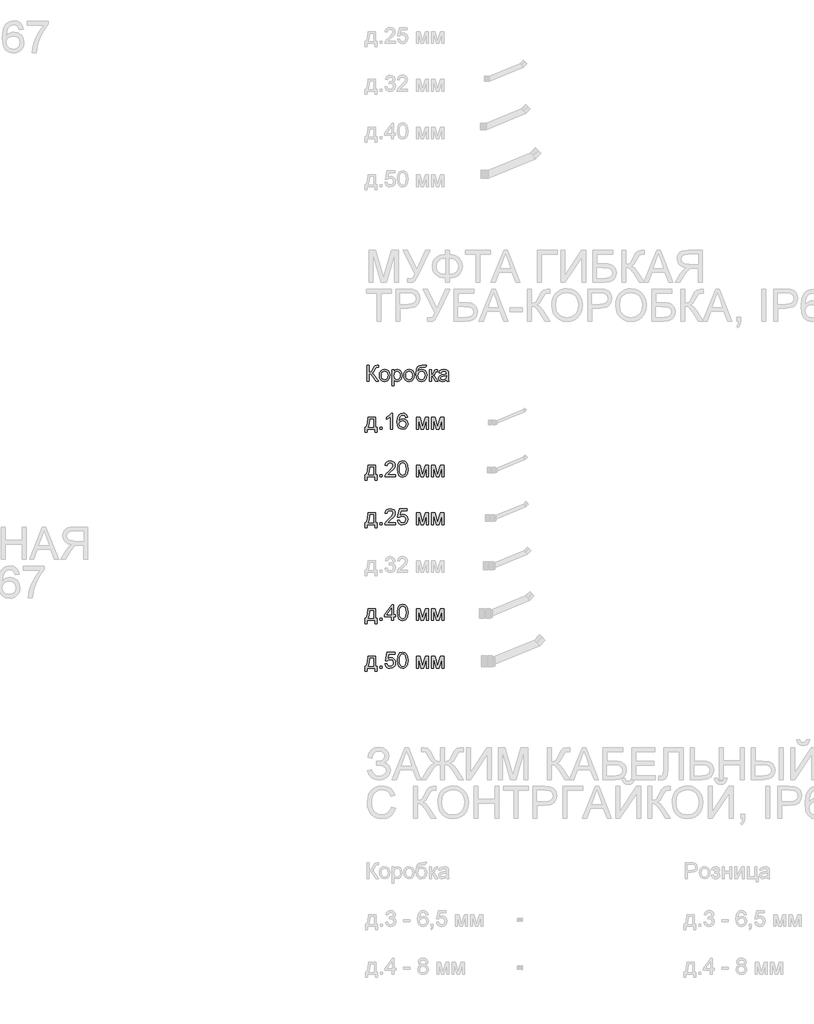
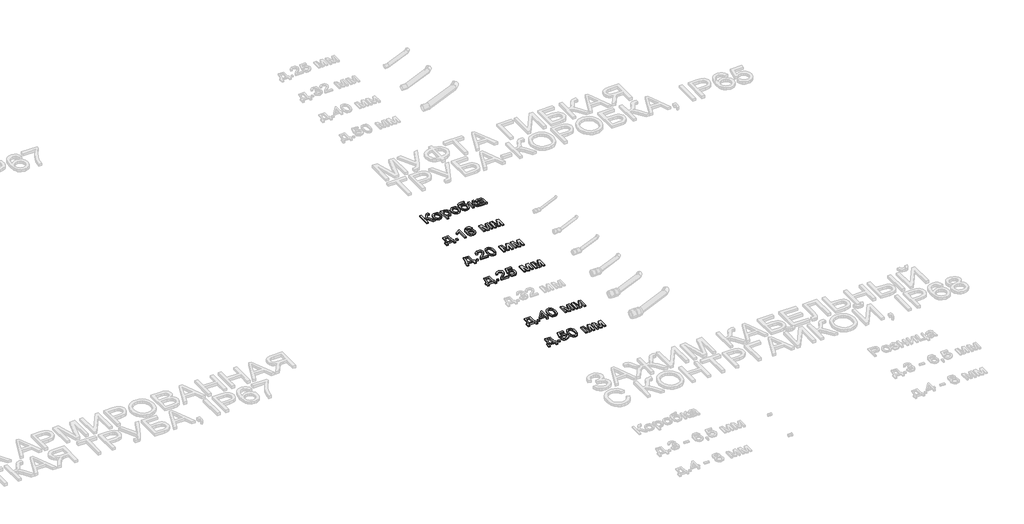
# One storey, part 61 of 98: 6 proxies.
"""IFC4 building model written with IfcOpenShell, lengths in millimetres."""

from ifc_helpers import new_model, si_unit, origin, origin_with_axes, place, context, project, spatial, polyline, outline, extrude, element, save

model = new_model("IFC4")

# Units and contexts
model_context = context("Model", 3, world=origin())
ifc_project = project(units=[si_unit("LENGTHUNIT", "METRE", prefix="MILLI")], contexts=[model_context])

# Site, building, storey
site = spatial("IfcSite", under=ifc_project)
building = spatial("IfcBuilding", under=site)
storey = spatial("IfcBuildingStorey", under=building, Name="Этаж 01", Elevation=0.0)

# Proxies
placement = place(None, origin())
element("IfcBuildingElementProxy", 1, Name="100", ObjectType="100", at=placement, inside=storey, context=model_context, shape_type="SweptSolid", body=[
    extrude(outline(polyline([(14428.905254, -24327.7143815), (14475.9941494, -24327.7143815), (14475.9941494, -24388.9299455), (14485.4119285, -24388.9299455), (14485.4119285, -24421.8921723), (14472.8548897, -24421.8921723), (14472.8548897, -24401.4869843), (14421.0571048, -24401.4869843), (14421.0571048, -24421.8921723), (14408.500066, -24421.8921723), (14408.500066, -24388.9299455), (14416.3482152, -24388.9299455), (14426.0480372, -24364.9808276), (14428.905254, -24327.7143815)]), holes=[polyline([(14439.8926629, -24340.2714203), (14436.949607, -24368.8803768), (14430.4748839, -24388.9299455), (14463.4371106, -24388.9299455), (14463.4371106, -24340.2714203), (14439.8926629, -24340.2714203)])]), origin_with_axes(), (0.0, 0.0, 1.0), 10.0),
    extrude(outline(polyline([(14502.6778568, -24401.4869843), (14502.6778568, -24388.9299455), (14515.2348955, -24388.9299455), (14515.2348955, -24401.4869843), (14502.6778568, -24401.4869843)])), origin_with_axes(), (0.0, 0.0, 1.0), 10.0),
    extrude(outline(polyline([(14582.7289789, -24401.4869843), (14570.1719402, -24401.4869843), (14570.1719402, -24323.2016957), (14558.277089, -24331.6752444), (14545.0578626, -24338.0150774), (14545.0578626, -24326.1447517), (14563.4642251, -24314.3970533), (14574.635575, -24301.0306742), (14582.7289789, -24301.0306742), (14582.7289789, -24401.4869843)])), origin_with_axes(), (0.0, 0.0, 1.0), 10.0),
    extrude(outline(polyline([(14676.9067697, -24327.7143815), (14664.3497309, -24329.2840114), (14659.5917905, -24318.8116373), (14647.0102262, -24313.5877129), (14635.6794608, -24316.6288707), (14627.1078103, -24328.0454753), (14623.5393549, -24350.4249634), (14634.612603, -24340.4063104), (14648.3346014, -24337.1321606), (14659.935147, -24339.3701094), (14669.6717571, -24346.0839558), (14676.2752389, -24356.3417321), (14678.4763995, -24369.2114706), (14674.3315957, -24386.5387126), (14662.9272539, -24398.8014457), (14646.470666, -24403.0566141), (14632.2244357, -24400.2361855), (14620.8783418, -24391.7748996), (14613.4563226, -24376.8388906), (14610.9823162, -24354.5942927), (14613.7291684, -24329.5844483), (14621.9697251, -24312.4840669), (14633.2207828, -24303.8940223), (14647.7950411, -24301.0306742), (14658.8131069, -24302.8026391), (14667.6361434, -24308.1185339), (14673.8165609, -24316.5614257), (14676.9067697, -24327.7143815)]), holes=[polyline([(14623.5393549, -24369.0152669), (14626.4456227, -24379.8923112), (14634.1711446, -24387.7895114), (14645.4896473, -24390.4995754), (14653.7761892, -24389.0954924), (14660.2907662, -24384.8832436), (14664.5122121, -24378.2613677), (14665.9193608, -24369.6284035), (14664.5306062, -24361.3418616), (14660.3643426, -24355.0234883), (14653.739401, -24351.0227716), (14644.9746125, -24349.6891994), (14629.7810861, -24355.0234883), (14625.0997877, -24361.1885774), (14623.5393549, -24369.0152669)])]), origin_with_axes(), (0.0, 0.0, 1.0), 10.0),
    extrude(outline(polyline([(14731.8438143, -24327.7143815), (14753.4507502, -24327.7143815), (14770.1035418, -24386.7717045), (14788.0561832, -24327.7143815), (14808.7556768, -24327.7143815), (14808.7556768, -24401.4869843), (14796.198638, -24401.4869843), (14796.198638, -24342.0863048), (14778.1478948, -24401.4869843), (14761.6667814, -24401.4869843), (14744.4008531, -24339.2413507), (14744.4008531, -24401.4869843), (14731.8438143, -24401.4869843), (14731.8438143, -24327.7143815)])), origin_with_axes(), (0.0, 0.0, 1.0), 10.0),
    extrude(outline(polyline([(14827.5912349, -24327.7143815), (14849.1981708, -24327.7143815), (14865.8509624, -24386.7717045), (14883.8036038, -24327.7143815), (14904.5030974, -24327.7143815), (14904.5030974, -24401.4869843), (14891.9460586, -24401.4869843), (14891.9460586, -24342.0863048), (14873.8953154, -24401.4869843), (14857.414202, -24401.4869843), (14840.1482737, -24339.2413507), (14840.1482737, -24401.4869843), (14827.5912349, -24401.4869843), (14827.5912349, -24327.7143815)])), origin_with_axes(), (0.0, 0.0, 1.0), 10.0),
])
element("IfcBuildingElementProxy", 2, Name="100", ObjectType="100", at=placement, inside=storey, context=model_context, shape_type="SweptSolid", body=[
    extrude(outline(polyline([(14422.316053, -24001.0306742), (14434.8730918, -24001.0306742), (14434.8730918, -24044.9803098), (14448.9139213, -24041.6571092), (14458.7118451, -24024.844902), (14465.6402893, -24010.8040725), (14473.4884386, -24003.8511028), (14484.7088394, -24001.0306742), (14492.9493961, -24001.177827), (14492.9493961, -24013.7348657), (14490.1780184, -24013.6612893), (14487.4066407, -24013.5877129), (14477.5964542, -24016.6043453), (14470.1407124, -24029.529266), (14461.2502309, -24045.2746154), (14452.5804785, -24050.4740143), (14462.2741691, -24056.1516598), (14471.8329696, -24067.9851973), (14492.9493961, -24101.4869843), (14478.3812691, -24101.4869843), (14460.5267296, -24073.1845961), (14447.9574281, -24058.4080027), (14434.8730918, -24054.3980889), (14434.8730918, -24101.4869843), (14422.316053, -24101.4869843), (14422.316053, -24001.0306742)])), origin_with_axes(), (0.0, 0.0, 1.0), 10.0),
    extrude(outline(polyline([(14499.2279155, -24064.6006829), (14501.9441109, -24046.8135885), (14510.0926971, -24034.311732), (14520.160401, -24028.1864968), (14532.2146677, -24026.1447517), (14545.4063029, -24028.6310208), (14555.9430564, -24036.0898283), (14562.8500409, -24047.9325629), (14565.152369, -24063.5706133), (14561.0811416, -24085.9133132), (14549.2230786, -24098.5561911), (14532.2146677, -24103.0566141), (14518.863617, -24100.579542), (14508.3391263, -24093.1483257), (14501.5057182, -24081.0572708), (14499.2279155, -24064.6006829)]), holes=[polyline([(14511.7849543, -24064.5761575), (14513.2380882, -24075.9406454), (14517.5974898, -24084.037115), (14524.158052, -24088.8839603), (14532.2146677, -24090.4995754), (14540.2344952, -24088.8747632), (14546.7827947, -24084.0003268), (14551.1421964, -24075.7965583), (14552.5953303, -24064.18375), (14551.1329993, -24053.1503558), (14546.7460065, -24045.1642508), (14540.18851, -24040.3174056), (14532.2146677, -24038.7017905), (14524.158052, -24040.3112742), (14517.5974898, -24045.1397254), (14513.2380882, -24053.2178009), (14511.7849543, -24064.5761575)])]), origin_with_axes(), (0.0, 0.0, 1.0), 10.0),
    extrude(outline(polyline([(14579.2790377, -24129.7403215), (14579.2790377, -24027.7143815), (14591.8360764, -24027.7143815), (14591.8360764, -24040.0261656), (14600.5180915, -24029.6151052), (14612.2412644, -24026.1447517), (14628.1582921, -24031.000794), (14638.5570898, -24044.6860042), (14642.0642315, -24064.0365972), (14638.1033687, -24084.3804715), (14626.600925, -24098.23736), (14610.7206855, -24103.0566141), (14599.7945903, -24099.8315153), (14591.8360764, -24091.6767978), (14591.8360764, -24129.7403215), (14579.2790377, -24129.7403215)]), holes=[polyline([(14591.8360764, -24065.1892941), (14593.1941741, -24076.4464832), (14597.2684672, -24084.3191579), (14603.2802722, -24088.954471), (14610.4509054, -24090.4995754), (14617.7380346, -24088.8992887), (14623.9031237, -24084.0984287), (14628.1061755, -24075.9375797), (14629.5071927, -24064.2573264), (14628.139898, -24053.061451), (14624.0380137, -24045.0784117), (14618.0354058, -24040.2959458), (14610.9659402, -24038.7017905), (14603.8688833, -24040.3971133), (14597.6363492, -24045.4830819), (14593.2861446, -24053.8002807), (14591.8360764, -24065.1892941)])]), origin_with_axes(), (0.0, 0.0, 1.0), 10.0),
    extrude(outline(polyline([(14653.0516404, -24064.6006829), (14655.7678358, -24046.8135885), (14663.916422, -24034.311732), (14673.9841259, -24028.1864968), (14686.0383927, -24026.1447517), (14699.2300279, -24028.6310208), (14709.7667813, -24036.0898283), (14716.6737658, -24047.9325629), (14718.976094, -24063.5706133), (14714.9048665, -24085.9133132), (14703.0468036, -24098.5561911), (14686.0383927, -24103.0566141), (14672.6873419, -24100.579542), (14662.1628512, -24093.1483257), (14655.3294431, -24081.0572708), (14653.0516404, -24064.6006829)]), holes=[polyline([(14665.6086792, -24064.5761575), (14667.0618131, -24075.9406454), (14671.4212147, -24084.037115), (14677.981777, -24088.8839603), (14686.0383927, -24090.4995754), (14694.0582202, -24088.8747632), (14700.6065197, -24084.0003268), (14704.9659213, -24075.7965583), (14706.4190552, -24064.18375), (14704.9567243, -24053.1503558), (14700.5697315, -24045.1642508), (14694.0122349, -24040.3174056), (14686.0383927, -24038.7017905), (14677.981777, -24040.3112742), (14671.4212147, -24045.1397254), (14667.0618131, -24053.2178009), (14665.6086792, -24064.5761575)])]), origin_with_axes(), (0.0, 0.0, 1.0), 10.0),
    extrude(outline(polyline([(14784.9005475, -23999.4610443), (14795.8879564, -23999.4610443), (14792.6505949, -24009.2589681), (14786.2494481, -24012.802898), (14770.8719807, -24013.5877129), (14750.1602244, -24016.481718), (14742.2139733, -24025.7523442), (14739.5284348, -24042.1598812), (14750.4054791, -24030.1424027), (14764.4217831, -24026.1447517), (14777.4877253, -24028.6862031), (14788.0888581, -24036.3105575), (14795.1154042, -24048.269788), (14797.4575863, -24063.815868), (14792.8100104, -24085.4228038), (14781.7858133, -24098.4580892), (14764.4217831, -24103.0566141), (14753.087952, -24101.5758891), (14744.5929436, -24097.133714), (14733.7404247, -24081.9769758), (14729.9635029, -24049.8118267), (14732.3455388, -24025.7186217), (14739.4916466, -24011.0248017), (14751.5796358, -24003.529206), (14768.7873161, -24001.0306742), (14782.7668319, -24000.7486313), (14784.9005475, -23999.4610443)]), holes=[polyline([(14784.9005475, -24063.4234605), (14783.5393841, -24053.5427633), (14779.455894, -24045.6302347), (14772.8953317, -24040.4339015), (14764.102952, -24038.7017905), (14754.936559, -24040.5320034), (14748.1368734, -24046.0226422), (14743.9246246, -24054.5728329), (14742.5205416, -24065.5817016), (14744.0717774, -24076.2533451), (14748.7254846, -24084.0861659), (14755.6539289, -24088.896223), (14764.0293756, -24090.4995754), (14772.447742, -24088.644837), (14779.1125374, -24083.0806218), (14783.453545, -24074.4568547), (14784.9005475, -24063.4234605)])]), origin_with_axes(), (0.0, 0.0, 1.0), 10.0),
    extrude(outline(polyline([(14813.1538847, -24027.7143815), (14825.7109235, -24027.7143815), (14825.7109235, -24059.1069785), (14834.1231584, -24056.8506356), (14841.0148145, -24043.7049856), (14846.7415109, -24032.3619574), (14851.7937569, -24028.6708747), (14860.9785441, -24027.7143815), (14863.3820398, -24027.7143815), (14863.3820398, -24040.3449967), (14859.9975254, -24040.2714203), (14853.8661589, -24041.5957955), (14849.5496768, -24049.8608776), (14844.485168, -24058.8004101), (14837.3850455, -24063.1782059), (14845.3067711, -24068.064905), (14853.0813439, -24078.3594695), (14866.5212995, -24101.4869843), (14852.2474781, -24101.4869843), (14839.0773026, -24078.8499789), (14832.4554267, -24069.2727843), (14825.7109235, -24066.9551277), (14825.7109235, -24101.4869843), (14813.1538847, -24101.4869843), (14813.1538847, -24027.7143815)])), origin_with_axes(), (0.0, 0.0, 1.0), 10.0),
    extrude(outline(polyline([(14921.4583441, -24092.0692052), (14909.2814501, -24100.579542), (14895.8292318, -24103.0566141), (14885.3353979, -24101.5666921), (14877.5945475, -24097.0969258), (14872.8212787, -24090.309503), (14871.230189, -24081.8666112), (14873.6336847, -24071.9337974), (14879.9489923, -24064.7233103), (14888.741372, -24060.6030319), (14899.6061536, -24058.714571), (14921.3847677, -24054.3980889), (14921.4583441, -24051.6021858), (14918.0002533, -24042.3315595), (14904.1188394, -24038.7017905), (14891.4146478, -24041.1175489), (14885.3568576, -24049.6891994), (14872.7998189, -24048.1195695), (14878.2322097, -24035.8568364), (14889.1705677, -24028.6708747), (14905.7375202, -24026.1447517), (14920.955572, -24028.3765691), (14929.551748, -24033.9806382), (14933.4022462, -24042.5032377), (14934.0153829, -24053.4906467), (14934.0153829, -24069.1133687), (14934.653045, -24090.928771), (14937.1546426, -24101.4869843), (14924.5976038, -24101.4869843), (14921.4583441, -24092.0692052)]), holes=[polyline([(14921.4583441, -24066.9551277), (14901.2003089, -24070.8056259), (14890.396841, -24072.8412396), (14885.5040104, -24076.1521776), (14883.7872278, -24080.9836944), (14887.5273614, -24087.7772486), (14898.5025076, -24090.4995754), (14911.2066992, -24087.4952058), (14919.3982049, -24080.223405), (14921.3847677, -24070.5113203), (14921.4583441, -24066.9551277)])]), origin_with_axes(), (0.0, 0.0, 1.0), 10.0),
])
element("IfcBuildingElementProxy", 3, Name="100", ObjectType="100", at=placement, inside=storey, context=model_context, shape_type="SweptSolid", body=[
    extrude(outline(polyline([(14428.905254, -24627.7143815), (14475.9941494, -24627.7143815), (14475.9941494, -24688.9299455), (14485.4119285, -24688.9299455), (14485.4119285, -24721.8921723), (14472.8548897, -24721.8921723), (14472.8548897, -24701.4869843), (14421.0571048, -24701.4869843), (14421.0571048, -24721.8921723), (14408.500066, -24721.8921723), (14408.500066, -24688.9299455), (14416.3482152, -24688.9299455), (14426.0480372, -24664.9808276), (14428.905254, -24627.7143815)]), holes=[polyline([(14439.8926629, -24640.2714203), (14436.949607, -24668.8803768), (14430.4748839, -24688.9299455), (14463.4371106, -24688.9299455), (14463.4371106, -24640.2714203), (14439.8926629, -24640.2714203)])]), origin_with_axes(), (0.0, 0.0, 1.0), 10.0),
    extrude(outline(polyline([(14502.6778568, -24701.4869843), (14502.6778568, -24688.9299455), (14515.2348955, -24688.9299455), (14515.2348955, -24701.4869843), (14502.6778568, -24701.4869843)])), origin_with_axes(), (0.0, 0.0, 1.0), 10.0),
    extrude(outline(polyline([(14599.9949072, -24688.9299455), (14599.9949072, -24701.4869843), (14534.0704537, -24701.4869843), (14535.4193544, -24692.8294947), (14543.0467744, -24679.4999037), (14558.7675983, -24664.9440394), (14580.4481106, -24644.0238167), (14585.8682386, -24629.7990462), (14580.7546789, -24618.2843397), (14567.4005625, -24613.5877129), (14553.4823603, -24618.1739751), (14548.1971223, -24630.8536412), (14535.6400835, -24629.2840114), (14538.6843071, -24617.1377742), (14545.2663291, -24608.2656867), (14555.0427931, -24602.8394273), (14567.6703426, -24601.0306742), (14580.3898626, -24603.0417624), (14590.1479325, -24609.0750271), (14596.3559412, -24618.088136), (14598.4252774, -24629.0387567), (14596.19346, -24640.9458706), (14588.7745064, -24653.2576547), (14570.7850768, -24670.4622694), (14556.3395771, -24682.5410616), (14550.6741944, -24688.9299455), (14599.9949072, -24688.9299455)])), origin_with_axes(), (0.0, 0.0, 1.0), 10.0),
    extrude(outline(polyline([(14612.551946, -24652.0681696), (14616.2430287, -24623.1649075), (14627.2059121, -24606.4998531), (14645.5141728, -24601.0306742), (14660.1804016, -24604.2680357), (14670.3094192, -24613.5999757), (14676.1955312, -24628.4624083), (14678.4763995, -24652.0681696), (14674.8221051, -24680.8488044), (14663.8960098, -24697.550647), (14655.6646502, -24701.6801224), (14645.5141728, -24703.0566141), (14632.4666247, -24700.6653812), (14622.5583363, -24693.4916823), (14615.0535436, -24676.5016655), (14612.551946, -24652.0681696)]), holes=[polyline([(14625.1089848, -24652.0436442), (14626.5805128, -24671.7958416), (14630.9950967, -24683.2277746), (14637.5679217, -24688.6816252), (14645.5141728, -24690.4995754), (14653.4604239, -24688.6754938), (14660.0332488, -24683.2032491), (14664.4478328, -24671.7651848), (14665.9193608, -24652.0436442), (14664.4968837, -24632.7359708), (14660.2294526, -24621.215133), (14653.6688903, -24615.4945679), (14645.36702, -24613.5877129), (14637.506608, -24615.2677074), (14631.1913004, -24620.3076907), (14626.6295637, -24632.5458984), (14625.1089848, -24652.0436442)])]), origin_with_axes(), (0.0, 0.0, 1.0), 10.0),
    extrude(outline(polyline([(14731.8438143, -24627.7143815), (14753.4507502, -24627.7143815), (14770.1035418, -24686.7717045), (14788.0561832, -24627.7143815), (14808.7556768, -24627.7143815), (14808.7556768, -24701.4869843), (14796.198638, -24701.4869843), (14796.198638, -24642.0863048), (14778.1478948, -24701.4869843), (14761.6667814, -24701.4869843), (14744.4008531, -24639.2413507), (14744.4008531, -24701.4869843), (14731.8438143, -24701.4869843), (14731.8438143, -24627.7143815)])), origin_with_axes(), (0.0, 0.0, 1.0), 10.0),
    extrude(outline(polyline([(14827.5912349, -24627.7143815), (14849.1981708, -24627.7143815), (14865.8509624, -24686.7717045), (14883.8036038, -24627.7143815), (14904.5030974, -24627.7143815), (14904.5030974, -24701.4869843), (14891.9460586, -24701.4869843), (14891.9460586, -24642.0863048), (14873.8953154, -24701.4869843), (14857.414202, -24701.4869843), (14840.1482737, -24639.2413507), (14840.1482737, -24701.4869843), (14827.5912349, -24701.4869843), (14827.5912349, -24627.7143815)])), origin_with_axes(), (0.0, 0.0, 1.0), 10.0),
])
element("IfcBuildingElementProxy", 4, Name="100", ObjectType="100", at=placement, inside=storey, context=model_context, shape_type="SweptSolid", body=[
    extrude(outline(polyline([(14428.905254, -24927.7143815), (14475.9941494, -24927.7143815), (14475.9941494, -24988.9299455), (14485.4119285, -24988.9299455), (14485.4119285, -25021.8921723), (14472.8548897, -25021.8921723), (14472.8548897, -25001.4869843), (14421.0571048, -25001.4869843), (14421.0571048, -25021.8921723), (14408.500066, -25021.8921723), (14408.500066, -24988.9299455), (14416.3482152, -24988.9299455), (14426.0480372, -24964.9808276), (14428.905254, -24927.7143815)]), holes=[polyline([(14439.8926629, -24940.2714203), (14436.949607, -24968.8803768), (14430.4748839, -24988.9299455), (14463.4371106, -24988.9299455), (14463.4371106, -24940.2714203), (14439.8926629, -24940.2714203)])]), origin_with_axes(), (0.0, 0.0, 1.0), 10.0),
    extrude(outline(polyline([(14502.6778568, -25001.4869843), (14502.6778568, -24988.9299455), (14515.2348955, -24988.9299455), (14515.2348955, -25001.4869843), (14502.6778568, -25001.4869843)])), origin_with_axes(), (0.0, 0.0, 1.0), 10.0),
    extrude(outline(polyline([(14599.9949072, -24988.9299455), (14599.9949072, -25001.4869843), (14534.0704537, -25001.4869843), (14535.4193544, -24992.8294947), (14543.0467744, -24979.4999037), (14558.7675983, -24964.9440394), (14580.4481106, -24944.0238167), (14585.8682386, -24929.7990462), (14580.7546789, -24918.2843397), (14567.4005625, -24913.5877129), (14553.4823603, -24918.1739751), (14548.1971223, -24930.8536412), (14535.6400835, -24929.2840114), (14538.6843071, -24917.1377742), (14545.2663291, -24908.2656867), (14555.0427931, -24902.8394273), (14567.6703426, -24901.0306742), (14580.3898626, -24903.0417624), (14590.1479325, -24909.0750271), (14596.3559412, -24918.088136), (14598.4252774, -24929.0387567), (14596.19346, -24940.9458706), (14588.7745064, -24953.2576547), (14570.7850768, -24970.4622694), (14556.3395771, -24982.5410616), (14550.6741944, -24988.9299455), (14599.9949072, -24988.9299455)])), origin_with_axes(), (0.0, 0.0, 1.0), 10.0),
    extrude(outline(polyline([(14612.551946, -24974.8032769), (14625.1089848, -24973.2336471), (14631.4365551, -24986.1708306), (14644.5576796, -24990.4995754), (14653.5585257, -24988.9943249), (14660.303029, -24984.4785734), (14664.5152778, -24977.4734871), (14665.9193608, -24968.5002321), (14660.6586482, -24953.5887485), (14654.0521007, -24949.4868643), (14644.7538833, -24948.1195695), (14633.7296862, -24950.302336), (14626.6786146, -24955.9677188), (14614.1215759, -24954.3980889), (14625.1089848, -24902.600304), (14673.76751, -24902.600304), (14673.76751, -24915.1573428), (14635.2625278, -24915.1573428), (14629.8914507, -24942.8220688), (14638.86164, -24937.3774153), (14648.261025, -24935.5625308), (14659.993395, -24937.8127423), (14669.7330708, -24944.5633769), (14676.2905674, -24954.85181), (14678.4763995, -24967.7154171), (14676.5082309, -24980.2724559), (14670.6037248, -24991.0146102), (14659.2974849, -25000.0461132), (14644.5086287, -25003.0566141), (14632.1753848, -25001.122168), (14622.3498698, -24995.3188295), (14615.6145636, -24986.3210491), (14612.551946, -24974.8032769)])), origin_with_axes(), (0.0, 0.0, 1.0), 10.0),
    extrude(outline(polyline([(14731.8438143, -24927.7143815), (14753.4507502, -24927.7143815), (14770.1035418, -24986.7717045), (14788.0561832, -24927.7143815), (14808.7556768, -24927.7143815), (14808.7556768, -25001.4869843), (14796.198638, -25001.4869843), (14796.198638, -24942.0863048), (14778.1478948, -25001.4869843), (14761.6667814, -25001.4869843), (14744.4008531, -24939.2413507), (14744.4008531, -25001.4869843), (14731.8438143, -25001.4869843), (14731.8438143, -24927.7143815)])), origin_with_axes(), (0.0, 0.0, 1.0), 10.0),
    extrude(outline(polyline([(14827.5912349, -24927.7143815), (14849.1981708, -24927.7143815), (14865.8509624, -24986.7717045), (14883.8036038, -24927.7143815), (14904.5030974, -24927.7143815), (14904.5030974, -25001.4869843), (14891.9460586, -25001.4869843), (14891.9460586, -24942.0863048), (14873.8953154, -25001.4869843), (14857.414202, -25001.4869843), (14840.1482737, -24939.2413507), (14840.1482737, -25001.4869843), (14827.5912349, -25001.4869843), (14827.5912349, -24927.7143815)])), origin_with_axes(), (0.0, 0.0, 1.0), 10.0),
])
element("IfcBuildingElementProxy", 5, Name="100", ObjectType="100", at=placement, inside=storey, context=model_context, shape_type="SweptSolid", body=[
    extrude(outline(polyline([(14428.905254, -25527.7143815), (14475.9941494, -25527.7143815), (14475.9941494, -25588.9299455), (14485.4119285, -25588.9299455), (14485.4119285, -25621.8921723), (14472.8548897, -25621.8921723), (14472.8548897, -25601.4869843), (14421.0571048, -25601.4869843), (14421.0571048, -25621.8921723), (14408.500066, -25621.8921723), (14408.500066, -25588.9299455), (14416.3482152, -25588.9299455), (14426.0480372, -25564.9808276), (14428.905254, -25527.7143815)]), holes=[polyline([(14439.8926629, -25540.2714203), (14436.949607, -25568.8803768), (14430.4748839, -25588.9299455), (14463.4371106, -25588.9299455), (14463.4371106, -25540.2714203), (14439.8926629, -25540.2714203)])]), origin_with_axes(), (0.0, 0.0, 1.0), 10.0),
    extrude(outline(polyline([(14502.6778568, -25601.4869843), (14502.6778568, -25588.9299455), (14515.2348955, -25588.9299455), (14515.2348955, -25601.4869843), (14502.6778568, -25601.4869843)])), origin_with_axes(), (0.0, 0.0, 1.0), 10.0),
    extrude(outline(polyline([(14576.4504595, -25601.4869843), (14576.4504595, -25577.9425366), (14530.931194, -25577.9425366), (14530.931194, -25565.3854978), (14579.5897192, -25502.600304), (14589.0074983, -25502.600304), (14589.0074983, -25565.3854978), (14601.5645371, -25565.3854978), (14601.5645371, -25577.9425366), (14589.0074983, -25577.9425366), (14589.0074983, -25601.4869843), (14576.4504595, -25601.4869843)]), holes=[polyline([(14576.4504595, -25565.3854978), (14576.4504595, -25526.5862101), (14546.3822378, -25565.3854978), (14576.4504595, -25565.3854978)])]), origin_with_axes(), (0.0, 0.0, 1.0), 10.0),
    extrude(outline(polyline([(14612.551946, -25552.0681696), (14616.2430287, -25523.1649075), (14627.2059121, -25506.4998531), (14645.5141728, -25501.0306742), (14660.1804016, -25504.2680357), (14670.3094192, -25513.5999757), (14676.1955312, -25528.4624083), (14678.4763995, -25552.0681696), (14674.8221051, -25580.8488044), (14663.8960098, -25597.550647), (14655.6646502, -25601.6801224), (14645.5141728, -25603.0566141), (14632.4666247, -25600.6653812), (14622.5583363, -25593.4916823), (14615.0535436, -25576.5016655), (14612.551946, -25552.0681696)]), holes=[polyline([(14625.1089848, -25552.0436442), (14626.5805128, -25571.7958416), (14630.9950967, -25583.2277746), (14637.5679217, -25588.6816252), (14645.5141728, -25590.4995754), (14653.4604239, -25588.6754938), (14660.0332488, -25583.2032491), (14664.4478328, -25571.7651848), (14665.9193608, -25552.0436442), (14664.4968837, -25532.7359708), (14660.2294526, -25521.215133), (14653.6688903, -25515.4945679), (14645.36702, -25513.5877129), (14637.506608, -25515.2677074), (14631.1913004, -25520.3076907), (14626.6295637, -25532.5458984), (14625.1089848, -25552.0436442)])]), origin_with_axes(), (0.0, 0.0, 1.0), 10.0),
    extrude(outline(polyline([(14731.8438143, -25527.7143815), (14753.4507502, -25527.7143815), (14770.1035418, -25586.7717045), (14788.0561832, -25527.7143815), (14808.7556768, -25527.7143815), (14808.7556768, -25601.4869843), (14796.198638, -25601.4869843), (14796.198638, -25542.0863048), (14778.1478948, -25601.4869843), (14761.6667814, -25601.4869843), (14744.4008531, -25539.2413507), (14744.4008531, -25601.4869843), (14731.8438143, -25601.4869843), (14731.8438143, -25527.7143815)])), origin_with_axes(), (0.0, 0.0, 1.0), 10.0),
    extrude(outline(polyline([(14827.5912349, -25527.7143815), (14849.1981708, -25527.7143815), (14865.8509624, -25586.7717045), (14883.8036038, -25527.7143815), (14904.5030974, -25527.7143815), (14904.5030974, -25601.4869843), (14891.9460586, -25601.4869843), (14891.9460586, -25542.0863048), (14873.8953154, -25601.4869843), (14857.414202, -25601.4869843), (14840.1482737, -25539.2413507), (14840.1482737, -25601.4869843), (14827.5912349, -25601.4869843), (14827.5912349, -25527.7143815)])), origin_with_axes(), (0.0, 0.0, 1.0), 10.0),
])
element("IfcBuildingElementProxy", 6, Name="100", ObjectType="100", at=placement, inside=storey, context=model_context, shape_type="SweptSolid", body=[
    extrude(outline(polyline([(14428.905254, -25827.7143815), (14475.9941494, -25827.7143815), (14475.9941494, -25888.9299455), (14485.4119285, -25888.9299455), (14485.4119285, -25921.8921723), (14472.8548897, -25921.8921723), (14472.8548897, -25901.4869843), (14421.0571048, -25901.4869843), (14421.0571048, -25921.8921723), (14408.500066, -25921.8921723), (14408.500066, -25888.9299455), (14416.3482152, -25888.9299455), (14426.0480372, -25864.9808276), (14428.905254, -25827.7143815)]), holes=[polyline([(14439.8926629, -25840.2714203), (14436.949607, -25868.8803768), (14430.4748839, -25888.9299455), (14463.4371106, -25888.9299455), (14463.4371106, -25840.2714203), (14439.8926629, -25840.2714203)])]), origin_with_axes(), (0.0, 0.0, 1.0), 10.0),
    extrude(outline(polyline([(14502.6778568, -25901.4869843), (14502.6778568, -25888.9299455), (14515.2348955, -25888.9299455), (14515.2348955, -25901.4869843), (14502.6778568, -25901.4869843)])), origin_with_axes(), (0.0, 0.0, 1.0), 10.0),
    extrude(outline(polyline([(14535.6400835, -25874.8032769), (14548.1971223, -25873.2336471), (14554.5246926, -25886.1708306), (14567.6458171, -25890.4995754), (14576.6466633, -25888.9943249), (14583.3911665, -25884.4785734), (14587.6034154, -25877.4734871), (14589.0074983, -25868.5002321), (14583.7467858, -25853.5887485), (14577.1402383, -25849.4868643), (14567.8420209, -25848.1195695), (14556.8178237, -25850.302336), (14549.7667522, -25855.9677188), (14537.2097134, -25854.3980889), (14548.1971223, -25802.600304), (14596.8556475, -25802.600304), (14596.8556475, -25815.1573428), (14558.3506654, -25815.1573428), (14552.9795883, -25842.8220688), (14561.9497776, -25837.3774153), (14571.3491625, -25835.5625308), (14583.0815325, -25837.8127423), (14592.8212083, -25844.5633769), (14599.3787049, -25854.85181), (14601.5645371, -25867.7154171), (14599.5963684, -25880.2724559), (14593.6918624, -25891.0146102), (14582.3856224, -25900.0461132), (14567.5967662, -25903.0566141), (14555.2635223, -25901.122168), (14545.4380074, -25895.3188295), (14538.7027012, -25886.3210491), (14535.6400835, -25874.8032769)])), origin_with_axes(), (0.0, 0.0, 1.0), 10.0),
    extrude(outline(polyline([(14612.551946, -25852.0681696), (14616.2430287, -25823.1649075), (14627.2059121, -25806.4998531), (14645.5141728, -25801.0306742), (14660.1804016, -25804.2680357), (14670.3094192, -25813.5999757), (14676.1955312, -25828.4624083), (14678.4763995, -25852.0681696), (14674.8221051, -25880.8488044), (14663.8960098, -25897.550647), (14655.6646502, -25901.6801224), (14645.5141728, -25903.0566141), (14632.4666247, -25900.6653812), (14622.5583363, -25893.4916823), (14615.0535436, -25876.5016655), (14612.551946, -25852.0681696)]), holes=[polyline([(14625.1089848, -25852.0436442), (14626.5805128, -25871.7958416), (14630.9950967, -25883.2277746), (14637.5679217, -25888.6816252), (14645.5141728, -25890.4995754), (14653.4604239, -25888.6754938), (14660.0332488, -25883.2032491), (14664.4478328, -25871.7651848), (14665.9193608, -25852.0436442), (14664.4968837, -25832.7359708), (14660.2294526, -25821.215133), (14653.6688903, -25815.4945679), (14645.36702, -25813.5877129), (14637.506608, -25815.2677074), (14631.1913004, -25820.3076907), (14626.6295637, -25832.5458984), (14625.1089848, -25852.0436442)])]), origin_with_axes(), (0.0, 0.0, 1.0), 10.0),
    extrude(outline(polyline([(14731.8438143, -25827.7143815), (14753.4507502, -25827.7143815), (14770.1035418, -25886.7717045), (14788.0561832, -25827.7143815), (14808.7556768, -25827.7143815), (14808.7556768, -25901.4869843), (14796.198638, -25901.4869843), (14796.198638, -25842.0863048), (14778.1478948, -25901.4869843), (14761.6667814, -25901.4869843), (14744.4008531, -25839.2413507), (14744.4008531, -25901.4869843), (14731.8438143, -25901.4869843), (14731.8438143, -25827.7143815)])), origin_with_axes(), (0.0, 0.0, 1.0), 10.0),
    extrude(outline(polyline([(14827.5912349, -25827.7143815), (14849.1981708, -25827.7143815), (14865.8509624, -25886.7717045), (14883.8036038, -25827.7143815), (14904.5030974, -25827.7143815), (14904.5030974, -25901.4869843), (14891.9460586, -25901.4869843), (14891.9460586, -25842.0863048), (14873.8953154, -25901.4869843), (14857.414202, -25901.4869843), (14840.1482737, -25839.2413507), (14840.1482737, -25901.4869843), (14827.5912349, -25901.4869843), (14827.5912349, -25827.7143815)])), origin_with_axes(), (0.0, 0.0, 1.0), 10.0),
])

save(model, "model.ifc")
